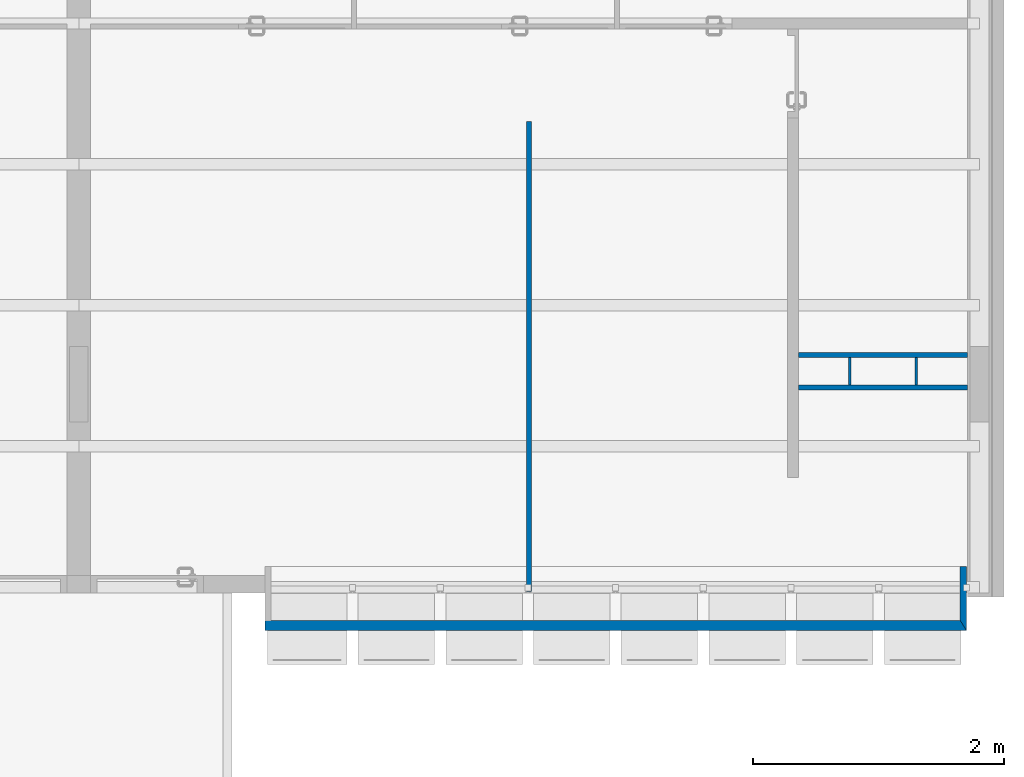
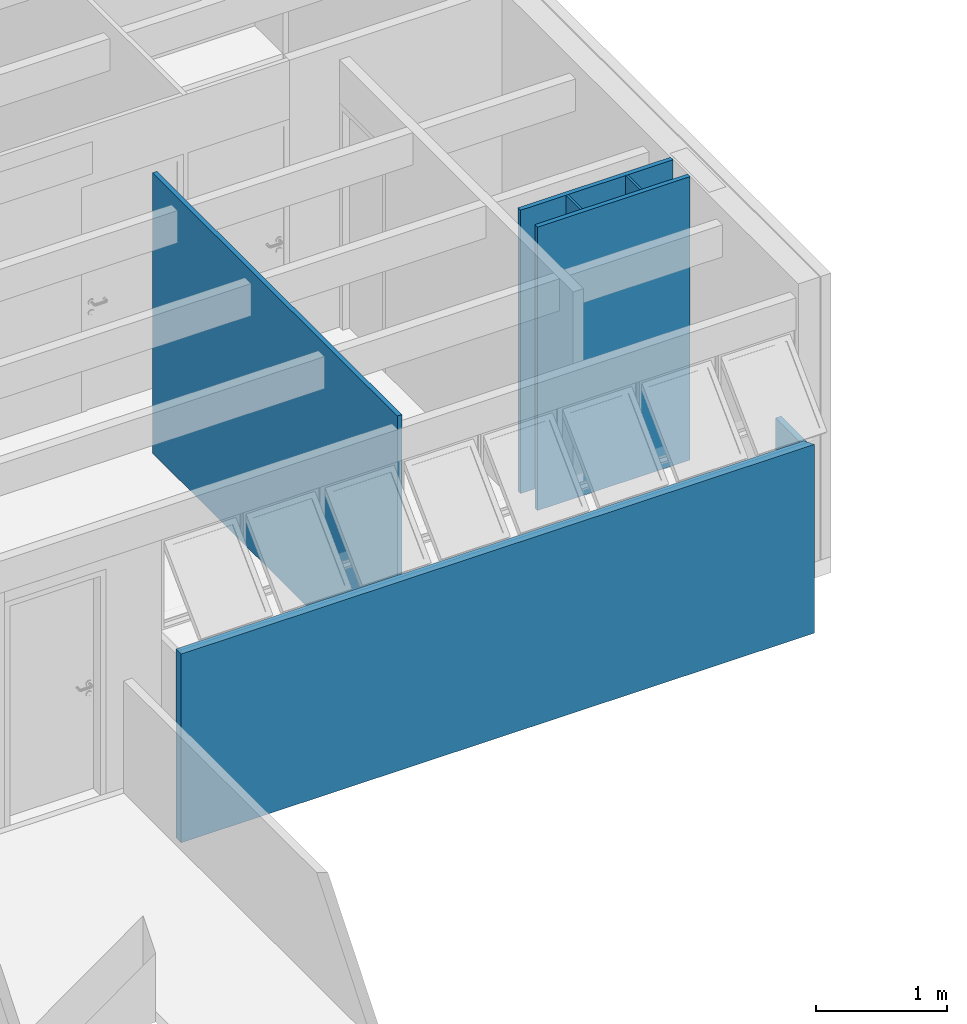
# One storey, part 37 of 41: 7 walls.
"""IFC4 building model written with IfcOpenShell, lengths in millimetres."""

from ifc_helpers import new_model, entity, si_unit, converted_unit, derived_unit, direction, frame, origin_with_axes, place, context, subcontext, project, spatial, line, indexed_curve, outline, extrude, material, layer, layer_set, layer_usage, type_object, element, save


model = new_model("IFC4")

# Units and contexts
model_context = context("Model", 3, precision=0.01, world=origin_with_axes(), true_north=direction((0.0, 1.0)))
body_context = subcontext(model_context, "Body", "Model", "MODEL_VIEW")
ifc_project = project(units=[si_unit("LENGTHUNIT", "METRE", prefix="MILLI"), si_unit("AREAUNIT", "SQUARE_METRE"), si_unit("VOLUMEUNIT", "CUBIC_METRE"), converted_unit("PLANEANGLEUNIT", "DEGREE", entity("IfcPlaneAngleMeasure", 0.0174532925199), si_unit("PLANEANGLEUNIT", "RADIAN"), dimensions=[0, 0, 0, 0, 0, 0, 0]), converted_unit("TIMEUNIT", "Year", entity("IfcTimeMeasure", 31556926.0), si_unit("TIMEUNIT", "SECOND"), dimensions=[0, 0, 1, 0, 0, 0, 0]), si_unit("MASSUNIT", "GRAM", prefix="KILO"), si_unit("THERMODYNAMICTEMPERATUREUNIT", "DEGREE_CELSIUS"), si_unit("LUMINOUSINTENSITYUNIT", "LUMEN"), si_unit("ENERGYUNIT", "JOULE", prefix="MEGA"), derived_unit("THERMALCONDUCTANCEUNIT", [(si_unit("POWERUNIT", "WATT"), 1), (si_unit("LENGTHUNIT", "METRE"), -1), (si_unit("THERMODYNAMICTEMPERATUREUNIT", "KELVIN"), -1)]), derived_unit("SPECIFICHEATCAPACITYUNIT", [(si_unit("ENERGYUNIT", "JOULE"), 1), (si_unit("MASSUNIT", "GRAM", prefix="KILO"), -1), (si_unit("THERMODYNAMICTEMPERATUREUNIT", "KELVIN"), -1)]), derived_unit("MASSDENSITYUNIT", [(si_unit("MASSUNIT", "GRAM", prefix="KILO"), 1), (si_unit("VOLUMEUNIT", "CUBIC_METRE"), -1)])], contexts=[model_context])

# Site, building, storey
site_placement = place(None, origin_with_axes())
site = spatial("IfcSite", under=ifc_project, at=site_placement, Name="Local", CompositionType="ELEMENT")
building_placement = place(site_placement, origin_with_axes())
building = spatial("IfcBuilding", under=site, at=building_placement, Name="Construção", CompositionType="ELEMENT")
storey_placement = place(building_placement, frame((0.0, 0.0, 2650.0), z_axis=(0.0, 0.0, 1.0), x_axis=(1.0, 0.0, 0.0)))
storey = spatial("IfcBuildingStorey", under=building, at=storey_placement, Name="Segundo Pavimento", CompositionType="ELEMENT", Elevation=2650.0)

# Walls
ifc_material_1 = material(Name="GENÉRICO - VEDAÇÃO EXTERNA")
ifc_layer_1 = layer(ifc_material_1, 40.0, ventilated="UNKNOWN", Name="GENÉRICO - VEDAÇÃO EXTERNA")
ifc_layer_set_1 = layer_set([ifc_layer_1], Name="GENÉRICO - VEDAÇÃO EXTERNA 40")
ifc_layer_usage_1 = layer_usage(ifc_layer_set_1, "AXIS2", "NEGATIVE", 40.0)
wall_type_1 = type_object("IfcWallType", Name="GENÉRICO - VEDAÇÃO EXTERNA 40", PredefinedType="NOTDEFINED")
wall_1_placement = place(storey_placement, frame((10960.0, 21655.0, 0.0), z_axis=(0.0, 0.0, 1.0), x_axis=(0.0, -1.0, 0.0)))
element("IfcWall", 1, at=wall_1_placement, inside=storey, type_object=wall_type_1, material=ifc_layer_usage_1, Name="APTO8-PAREDE-003", PredefinedType="NOTDEFINED", context=body_context, shape_type="SweptSolid", body=[
    extrude(outline(indexed_curve([(0.0, 0.0), (3750.0, 0.0), (3750.0, 40.0), (0.0, 40.0)], segments=[line(1, 2, 3, 4, 1)])), origin_with_axes(), (0.0, 0.0, 1.0), 2620.0),
])
ifc_layer_usage_2 = layer_usage(ifc_layer_set_1, "AXIS2", "NEGATIVE", 40.0)
wall_2_placement = place(storey_placement, frame((14480.0, 19815.0, 0.0), z_axis=(0.0, 0.0, 1.0), x_axis=(-1.0, 0.0, 0.0)))
element("IfcWall", 2, at=wall_2_placement, inside=storey, type_object=wall_type_1, material=ifc_layer_usage_2, Name="APTO8-PAREDE-011", PredefinedType="NOTDEFINED", context=body_context, shape_type="SweptSolid", body=[
    extrude(outline(indexed_curve([(0.0, 0.0), (1350.0, 0.0), (1350.0, 40.0), (0.0, 40.0)], segments=[line(1, 2, 3, 4, 1)])), origin_with_axes(), (0.0, 0.0, 1.0), 2650.0),
])
ifc_layer_usage_3 = layer_usage(ifc_layer_set_1, "AXIS2", "NEGATIVE", 40.0)
wall_3_placement = place(storey_placement, frame((13040.0, 19515.0, 0.0), z_axis=(0.0, 0.0, 1.0), x_axis=(1.0, 0.0, 0.0)))
element("IfcWall", 3, at=wall_3_placement, inside=storey, type_object=wall_type_1, material=ifc_layer_usage_3, Name="APTO8-PAREDE-010", PredefinedType="NOTDEFINED", context=body_context, shape_type="SweptSolid", body=[
    extrude(outline(indexed_curve([(90.0, 0.0), (1440.0, 0.0), (1440.0, 40.0), (90.0, 40.0)], segments=[line(1, 2, 3, 4, 1)])), origin_with_axes(), (0.0, 0.0, 1.0), 2650.0),
])
ifc_material_2 = material(Name="Concreto Armado Moldado in Loco - Estrutural")
ifc_layer_2 = layer(ifc_material_2, 50.0, ventilated="UNKNOWN", Name="Concreto Armado Moldado in Loco - Estrutural")
ifc_layer_set_2 = layer_set([ifc_layer_2], Name="Concreto Armado Moldado in Loco - Estrutural 50")
ifc_layer_usage_4 = layer_usage(ifc_layer_set_2, "AXIS2", "POSITIVE", -50.0)
wall_type_2 = type_object("IfcWallType", Name="Concreto Armado Moldado in Loco - Estrutural 50", PredefinedType="NOTDEFINED")
wall_4_placement = place(storey_placement, frame((14470.0, 18105.0000013, 0.0), z_axis=(0.0, 0.0, 1.0), x_axis=(0.0, -1.0, 0.0)))
element("IfcWall", 4, at=wall_4_placement, inside=storey, type_object=wall_type_2, material=ifc_layer_usage_4, Name="APTO8-PAREDE-018", PredefinedType="NOTDEFINED", context=body_context, shape_type="SweptSolid", body=[
    extrude(outline(indexed_curve([(0.0, -50.0), (430.0, -50.0), (510.0, 0.0), (0.0, 0.0)], segments=[line(1, 2, 3, 4, 1)])), origin_with_axes(), (0.0, 0.0, 1.0), 1270.0),
])
ifc_layer_3 = layer(ifc_material_1, 20.0, ventilated="UNKNOWN", Name="GENÉRICO - VEDAÇÃO EXTERNA")
ifc_layer_set_3 = layer_set([ifc_layer_3], Name="GENÉRICO - VEDAÇÃO EXTERNA 20")
ifc_layer_usage_5 = layer_usage(ifc_layer_set_3, "AXIS2", "NEGATIVE", 20.0)
wall_type_3 = type_object("IfcWallType", Name="GENÉRICO - VEDAÇÃO EXTERNA 20", PredefinedType="NOTDEFINED")
wall_5_placement = place(storey_placement, frame((14060.0, 19815.0, 0.0), z_axis=(0.0, 0.0, 1.0), x_axis=(0.0, -1.0, 0.0)))
element("IfcWall", 5, at=wall_5_placement, inside=storey, type_object=wall_type_3, material=ifc_layer_usage_5, Name="APTO8-PAREDE-009", PredefinedType="NOTDEFINED", context=body_context, shape_type="SweptSolid", body=[
    extrude(outline(indexed_curve([(40.0, 0.0), (260.0, 0.0), (260.0, 20.0), (40.0, 20.0)], segments=[line(1, 2, 3, 4, 1)])), origin_with_axes(), (0.0, 0.0, 1.0), 2650.0),
])
ifc_layer_usage_6 = layer_usage(ifc_layer_set_3, "AXIS2", "NEGATIVE", 0.0)
wall_6_placement = place(storey_placement, frame((13530.0, 19515.0, 0.0), z_axis=(0.0, 0.0, 1.0), x_axis=(0.0, 1.0, 0.0)))
element("IfcWall", 6, at=wall_6_placement, inside=storey, type_object=wall_type_3, material=ifc_layer_usage_6, Name="APTO8-PAREDE-008", PredefinedType="NOTDEFINED", context=body_context, shape_type="SweptSolid", body=[
    extrude(outline(indexed_curve([(40.0, -20.0), (260.0, -20.0), (260.0, 0.0), (40.0, 0.0)], segments=[line(1, 2, 3, 4, 1)])), origin_with_axes(), (0.0, 0.0, 1.0), 2650.0),
])
ifc_layer_4 = layer(ifc_material_2, 80.0, ventilated="UNKNOWN", Name="Concreto Armado Moldado in Loco - Estrutural")
ifc_layer_set_4 = layer_set([ifc_layer_4], Name="Concreto Armado Moldado in Loco - Estrutural 80")
ifc_layer_usage_7 = layer_usage(ifc_layer_set_4, "AXIS2", "NEGATIVE", 80.0)
wall_type_4 = type_object("IfcWallType", Name="Concreto Armado Moldado in Loco - Estrutural 80", PredefinedType="NOTDEFINED")
wall_7_placement = place(storey_placement, frame((14470.0, 17675.0000013, -450.0), z_axis=(0.0, 0.0, 1.0), x_axis=(-1.0, 0.0, 0.0)))
element("IfcWall", 7, at=wall_7_placement, inside=storey, type_object=wall_type_4, material=ifc_layer_usage_7, Name="APTO8-PAREDE-017", PredefinedType="NOTDEFINED", context=body_context, shape_type="SweptSolid", body=[
    extrude(outline(indexed_curve([(50.0, 0.0), (5600.0, 0.0), (5600.0, 80.0), (0.0, 80.0)], segments=[line(1, 2, 3, 4, 1)])), origin_with_axes(), (0.0, 0.0, 1.0), 1765.0),
])

save(model, "model.ifc")
